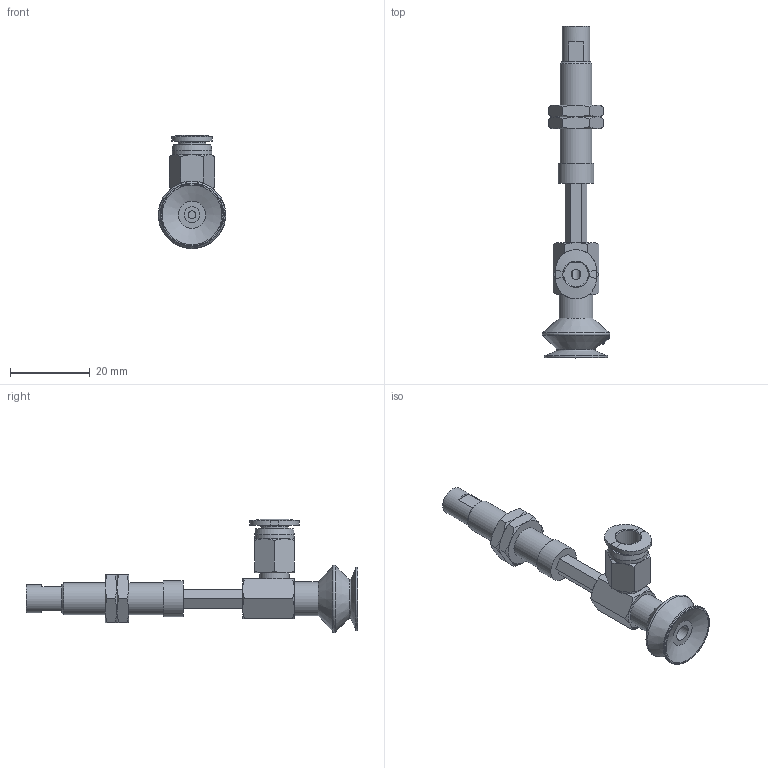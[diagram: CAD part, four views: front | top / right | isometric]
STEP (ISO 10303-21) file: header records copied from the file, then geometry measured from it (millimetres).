
FILE_DESCRIPTION(('STEP AP203'),'1');
FILE_NAME('-O.stp','2025-04-02T01:44:11',(' '),(' '),'Spatial InterOp 3D',' ',' ');
FILE_SCHEMA(('CONFIG_CONTROL_DESIGN'));
Length unit declared in the file: millimetre
Products named in the file (9): BNABPBYH-15A-15-※-O; CONNECTOR-15A-15-PB; Nut-15A-S-PB; NAPBTH-15A-15-FBODY; NAPBTH-15A-15-MBODY; BPBG-15A-※; __27; BPBG-15A; PC-C_06-M5
Assembly tree (9 placements, depth 3):
  BNABPBYH-15A-15-※-O
    CONNECTOR-15A-15-PB
    Nut-15A-S-PB  x2
    NAPBTH-15A-15-FBODY
    NAPBTH-15A-15-MBODY
    BPBG-15A-※
      __27
      BPBG-15A
    PC-C_06-M5
Bounding box: 16.99 x 83.5 x 28.48 mm (x, y, z)
Volume: 5028.9 mm3; surface area: 6709.4 mm2
Topology: 7 solids, 10 shells, 205 faces, 440 edges, 270 vertices
Faces by surface type: plane 81, cone 71, cylinder 25, torus 13, bspline 12, revolution 3
Full cylindrical faces by diameter (mm): 2 x1, 4 x5, 4.134 x2, 5 x2, 6 x2, 7 x2, 7.188 x2, 7.4 x1, 8 x1, 8.2 x1, 8.5 x1, 9 x1, 10 x1, 16 x1
Entity records: 6573 total; most frequent: CARTESIAN_POINT 2624, DIRECTION 704, ORIENTED_EDGE 646, EDGE_CURVE 325, AXIS2_PLACEMENT_3D 300, EDGE_LOOP 263, VERTEX_POINT 228, FACE_OUTER_BOUND 157
